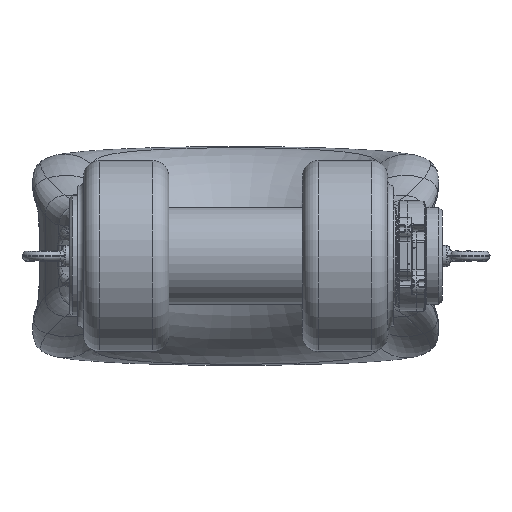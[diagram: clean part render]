
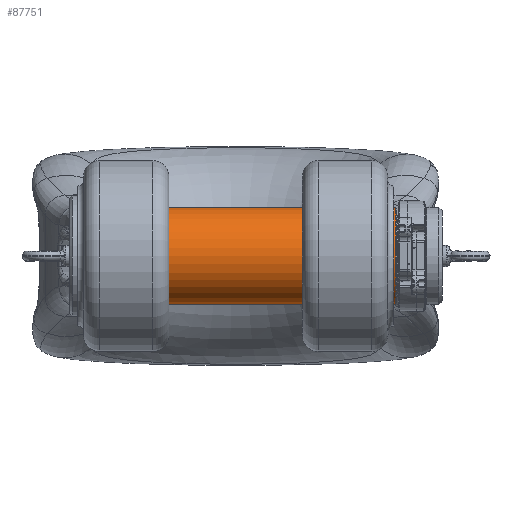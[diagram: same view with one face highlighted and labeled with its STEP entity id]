
A CAD part, front view. The second image highlights one B-rep face of the part: STEP entity #87751.
In plain terms, the highlighted cylindrical face has radius 80 mm (diameter 160 mm), a partial arc.
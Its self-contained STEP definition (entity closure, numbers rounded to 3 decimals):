
#81731=CARTESIAN_POINT('',(503.5,0.,0.));
#81732=DIRECTION('',(-1.,0.,0.));
#81733=DIRECTION('',(0.,0.,-1.));
#81734=AXIS2_PLACEMENT_3D('',#81731,#81732,#81733);
#81739=CARTESIAN_POINT('',(3.,0.,0.));
#81740=DIRECTION('',(1.,0.,0.));
#81741=DIRECTION('',(0.,0.,1.));
#81742=AXIS2_PLACEMENT_3D('',#81739,#81740,#81741);
#81747=DIRECTION('',(1.,0.,0.));
#81748=VECTOR('',#81747,500.5);
#81749=CARTESIAN_POINT('',(3.,0.,80.));
#81750=LINE('',#81749,#81748);
#81807=DIRECTION('',(1.,0.,0.));
#81808=VECTOR('',#81807,500.5);
#81809=CARTESIAN_POINT('',(3.,0.,-80.));
#81810=LINE('',#81809,#81808);
#87593=CARTESIAN_POINT('',(3.,0.,80.));
#87594=CARTESIAN_POINT('',(3.,0.,-80.));
#87595=VERTEX_POINT('',#87593);
#87596=VERTEX_POINT('',#87594);
#87597=CARTESIAN_POINT('',(503.5,0.,-80.));
#87598=CARTESIAN_POINT('',(503.5,0.,80.));
#87599=VERTEX_POINT('',#87597);
#87600=VERTEX_POINT('',#87598);
#87737=CARTESIAN_POINT('',(-33.,0.,0.));
#87738=DIRECTION('',(1.,0.,0.));
#87739=DIRECTION('',(0.,0.,-1.));
#87740=AXIS2_PLACEMENT_3D('',#87737,#87738,#87739);
#87741=CYLINDRICAL_SURFACE('',#87740,80.);
#87743=ORIENTED_EDGE('',*,*,#87742,.F.);
#87745=ORIENTED_EDGE('',*,*,#87744,.F.);
#87746=ORIENTED_EDGE('',*,*,#87724,.F.);
#87748=ORIENTED_EDGE('',*,*,#87747,.T.);
#87749=EDGE_LOOP('',(#87743,#87745,#87746,#87748));
#87750=FACE_OUTER_BOUND('',#87749,.F.);
#87751=ADVANCED_FACE('',(#87750),#87741,.T.);
#81735=CIRCLE('',#81734,80.);
#81743=CIRCLE('',#81742,80.);
#87724=EDGE_CURVE('',#87595,#87596,#81743,.T.);
#87742=EDGE_CURVE('',#87599,#87600,#81735,.T.);
#87744=EDGE_CURVE('',#87596,#87599,#81810,.T.);
#87747=EDGE_CURVE('',#87595,#87600,#81750,.T.);
